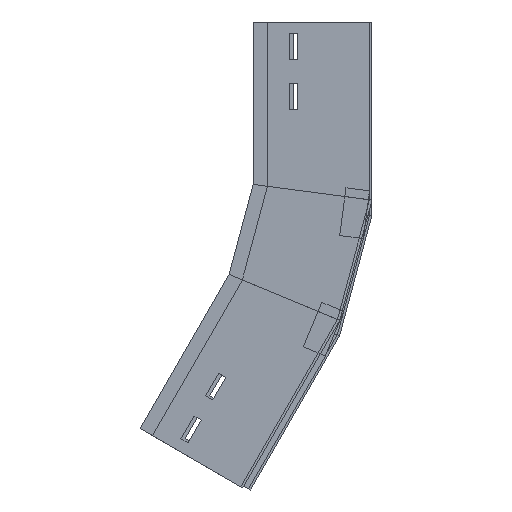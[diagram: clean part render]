
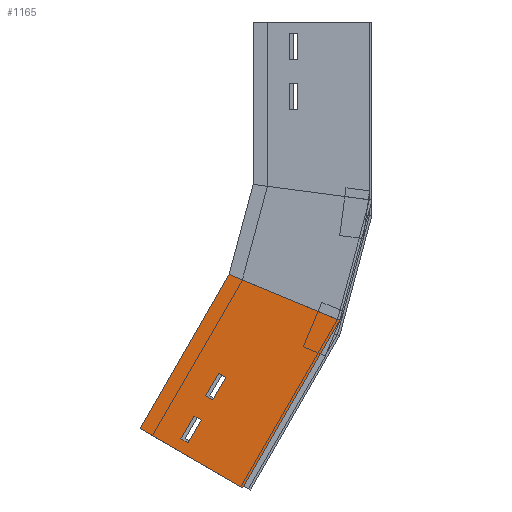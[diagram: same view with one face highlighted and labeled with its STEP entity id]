
A CAD part, left-side view. The second image highlights one B-rep face of the part: STEP entity #1165.
In plain terms, the highlighted planar face has unit normal (-1, 0, 0) as drawn and (1, 0, 0) by its records, which use the part's own axes.
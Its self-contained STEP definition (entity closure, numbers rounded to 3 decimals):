
#3 = DIRECTION ( 'NONE',  ( 0., 1., 0. ) ) ;
#32 = VERTEX_POINT ( 'NONE', #1160 ) ;
#43 = ORIENTED_EDGE ( 'NONE', *, *, #370, .T. ) ;
#48 = VERTEX_POINT ( 'NONE', #810 ) ;
#74 = VERTEX_POINT ( 'NONE', #678 ) ;
#77 = LINE ( 'NONE', #1457, #1197 ) ;
#85 = EDGE_CURVE ( 'NONE', #1406, #266, #597, .T. ) ;
#99 = EDGE_CURVE ( 'NONE', #32, #48, #1049, .T. ) ;
#113 = CARTESIAN_POINT ( 'NONE',  ( 0., 0., 0. ) ) ;
#114 = CARTESIAN_POINT ( 'NONE',  ( 0., 59., -51.505 ) ) ;
#125 = LINE ( 'NONE', #833, #1102 ) ;
#141 = LINE ( 'NONE', #939, #1124 ) ;
#164 = VECTOR ( 'NONE', #1342, 1000. ) ;
#181 = CARTESIAN_POINT ( 'NONE',  ( 0., 0., 0. ) ) ;
#199 = PLANE ( 'NONE',  #1181 ) ;
#214 = CARTESIAN_POINT ( 'NONE',  ( 0., 100., -149.835 ) ) ;
#216 = CARTESIAN_POINT ( 'NONE',  ( 0., 66., -73.505 ) ) ;
#260 = CARTESIAN_POINT ( 'NONE',  ( 0., 66., -51.505 ) ) ;
#266 = VERTEX_POINT ( 'NONE', #394 ) ;
#280 = ORIENTED_EDGE ( 'NONE', *, *, #673, .T. ) ;
#283 = DIRECTION ( 'NONE',  ( 0., 1., 0. ) ) ;
#345 = LINE ( 'NONE', #800, #550 ) ;
#370 = EDGE_CURVE ( 'NONE', #772, #32, #1254, .T. ) ;
#394 = CARTESIAN_POINT ( 'NONE',  ( 0., 59., -9.835 ) ) ;
#396 = ORIENTED_EDGE ( 'NONE', *, *, #1450, .T. ) ;
#488 = EDGE_CURVE ( 'NONE', #805, #74, #1483, .T. ) ;
#496 = CARTESIAN_POINT ( 'NONE',  ( 0., 100., 0. ) ) ;
#512 = VECTOR ( 'NONE', #3, 1000. ) ;
#536 = FACE_OUTER_BOUND ( 'NONE', #1088, .T. ) ;
#550 = VECTOR ( 'NONE', #1250, 1000. ) ;
#562 = VERTEX_POINT ( 'NONE', #214 ) ;
#577 = EDGE_CURVE ( 'NONE', #805, #1038, #1042, .T. ) ;
#581 = ORIENTED_EDGE ( 'NONE', *, *, #99, .T. ) ;
#597 = LINE ( 'NONE', #1150, #707 ) ;
#604 = EDGE_CURVE ( 'NONE', #562, #74, #345, .T. ) ;
#639 = EDGE_LOOP ( 'NONE', ( #396, #1286, #280, #1477 ) ) ;
#673 = EDGE_CURVE ( 'NONE', #700, #1406, #141, .T. ) ;
#678 = CARTESIAN_POINT ( 'NONE',  ( 0., 0., -163. ) ) ;
#687 = DIRECTION ( 'NONE',  ( 0., 0., -1. ) ) ;
#700 = VERTEX_POINT ( 'NONE', #1200 ) ;
#701 = ORIENTED_EDGE ( 'NONE', *, *, #845, .F. ) ;
#707 = VECTOR ( 'NONE', #1141, 1000. ) ;
#740 = EDGE_CURVE ( 'NONE', #963, #700, #77, .T. ) ;
#742 = VECTOR ( 'NONE', #906, 1000. ) ;
#759 = EDGE_LOOP ( 'NONE', ( #862, #1152, #43, #581 ) ) ;
#772 = VERTEX_POINT ( 'NONE', #990 ) ;
#793 = CARTESIAN_POINT ( 'NONE',  ( 0., 0., 0. ) ) ;
#800 = CARTESIAN_POINT ( 'NONE',  ( 0., 21.094, -160.223 ) ) ;
#804 = EDGE_CURVE ( 'NONE', #48, #1069, #1090, .T. ) ;
#805 = VERTEX_POINT ( 'NONE', #1084 ) ;
#810 = CARTESIAN_POINT ( 'NONE',  ( 0., 59., -51.505 ) ) ;
#833 = CARTESIAN_POINT ( 'NONE',  ( 0., 66., -51.505 ) ) ;
#838 = VECTOR ( 'NONE', #283, 1000. ) ;
#845 = EDGE_CURVE ( 'NONE', #1038, #562, #1362, .T. ) ;
#847 = VECTOR ( 'NONE', #1350, 1000. ) ;
#862 = ORIENTED_EDGE ( 'NONE', *, *, #804, .T. ) ;
#867 = LINE ( 'NONE', #922, #742 ) ;
#870 = FACE_BOUND ( 'NONE', #759, .T. ) ;
#906 = DIRECTION ( 'NONE',  ( 0., 1., 0. ) ) ;
#922 = CARTESIAN_POINT ( 'NONE',  ( 0., 66., -9.835 ) ) ;
#939 = CARTESIAN_POINT ( 'NONE',  ( 0., 66., -31.835 ) ) ;
#963 = VERTEX_POINT ( 'NONE', #1327 ) ;
#990 = CARTESIAN_POINT ( 'NONE',  ( 0., 66., -73.505 ) ) ;
#1038 = VERTEX_POINT ( 'NONE', #496 ) ;
#1042 = LINE ( 'NONE', #793, #512 ) ;
#1049 = LINE ( 'NONE', #114, #1115 ) ;
#1051 = ORIENTED_EDGE ( 'NONE', *, *, #488, .T. ) ;
#1062 = ORIENTED_EDGE ( 'NONE', *, *, #604, .F. ) ;
#1063 = EDGE_CURVE ( 'NONE', #1069, #772, #125, .T. ) ;
#1069 = VERTEX_POINT ( 'NONE', #260 ) ;
#1084 = CARTESIAN_POINT ( 'NONE',  ( 0., 0., 0. ) ) ;
#1088 = EDGE_LOOP ( 'NONE', ( #701, #1262, #1051, #1062 ) ) ;
#1090 = LINE ( 'NONE', #1432, #838 ) ;
#1094 = DIRECTION ( 'NONE',  ( -1., 0., 0. ) ) ;
#1102 = VECTOR ( 'NONE', #687, 1000. ) ;
#1115 = VECTOR ( 'NONE', #1194, 1000. ) ;
#1124 = VECTOR ( 'NONE', #1395, 1000. ) ;
#1141 = DIRECTION ( 'NONE',  ( 0., 0., 1. ) ) ;
#1149 = DIRECTION ( 'NONE',  ( 0., 0., -1. ) ) ;
#1150 = CARTESIAN_POINT ( 'NONE',  ( 0., 59., -9.835 ) ) ;
#1152 = ORIENTED_EDGE ( 'NONE', *, *, #1063, .T. ) ;
#1155 = VECTOR ( 'NONE', #1149, 1000. ) ;
#1160 = CARTESIAN_POINT ( 'NONE',  ( 0., 59., -73.505 ) ) ;
#1165 = ADVANCED_FACE ( 'NONE', ( #870, #536, #1328 ), #199, .F. ) ;
#1181 = AXIS2_PLACEMENT_3D ( 'NONE', #181, #1094, #1322 ) ;
#1194 = DIRECTION ( 'NONE',  ( 0., 0., 1. ) ) ;
#1197 = VECTOR ( 'NONE', #1326, 1000. ) ;
#1200 = CARTESIAN_POINT ( 'NONE',  ( 0., 66., -31.835 ) ) ;
#1241 = CARTESIAN_POINT ( 'NONE',  ( 0., 59., -31.835 ) ) ;
#1250 = DIRECTION ( 'NONE',  ( 0., -0.991, -0.131 ) ) ;
#1254 = LINE ( 'NONE', #216, #847 ) ;
#1262 = ORIENTED_EDGE ( 'NONE', *, *, #577, .F. ) ;
#1286 = ORIENTED_EDGE ( 'NONE', *, *, #740, .T. ) ;
#1322 = DIRECTION ( 'NONE',  ( 0., 0., 1. ) ) ;
#1326 = DIRECTION ( 'NONE',  ( 0., 0., -1. ) ) ;
#1327 = CARTESIAN_POINT ( 'NONE',  ( 0., 66., -9.835 ) ) ;
#1328 = FACE_BOUND ( 'NONE', #639, .T. ) ;
#1342 = DIRECTION ( 'NONE',  ( 0., 0., -1. ) ) ;
#1347 = CARTESIAN_POINT ( 'NONE',  ( 0., 100., 0. ) ) ;
#1350 = DIRECTION ( 'NONE',  ( 0., -1., 0. ) ) ;
#1362 = LINE ( 'NONE', #1347, #164 ) ;
#1395 = DIRECTION ( 'NONE',  ( 0., -1., 0. ) ) ;
#1406 = VERTEX_POINT ( 'NONE', #1241 ) ;
#1432 = CARTESIAN_POINT ( 'NONE',  ( 0., 66., -51.505 ) ) ;
#1450 = EDGE_CURVE ( 'NONE', #266, #963, #867, .T. ) ;
#1457 = CARTESIAN_POINT ( 'NONE',  ( 0., 66., -9.835 ) ) ;
#1477 = ORIENTED_EDGE ( 'NONE', *, *, #85, .T. ) ;
#1483 = LINE ( 'NONE', #113, #1155 ) ;
